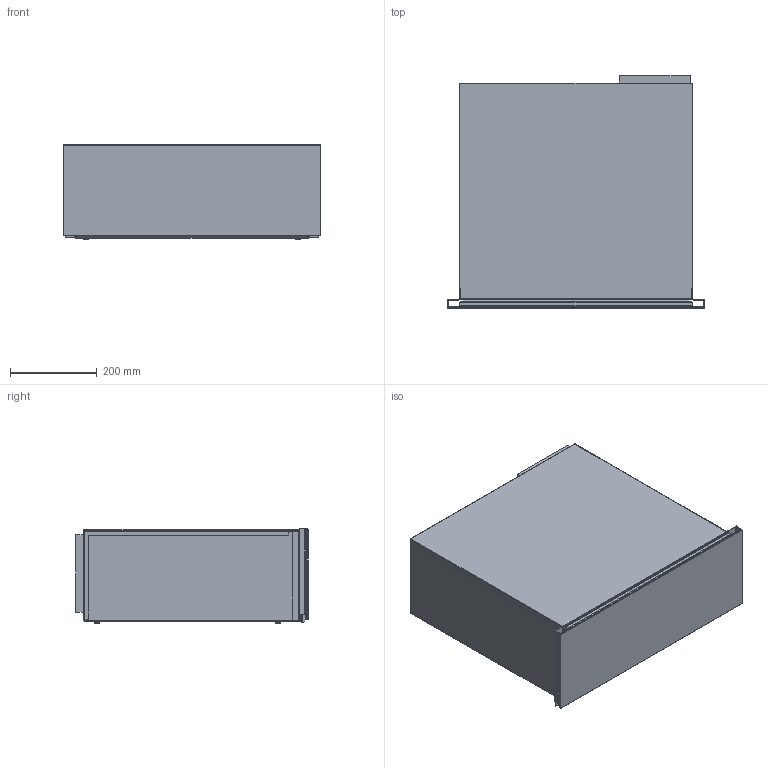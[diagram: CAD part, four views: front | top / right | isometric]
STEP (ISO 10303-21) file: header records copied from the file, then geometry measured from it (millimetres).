
FILE_DESCRIPTION(/* description */ (''),/* implementation_level */ '2;1');
FILE_NAME(/* name */ 'X3402900000-A',/* time_stamp */ '2022-12-05T18:33:33+01:00',/* author */ (''),/* organization */ (''),/* preprocessor_version */ 'ST-DEVELOPER v16.5',/* originating_system */ 'Rhino 7.24',/* authorisation */ '');
FILE_SCHEMA (('AUTOMOTIVE_DESIGN'));
Length unit declared in the file: millimetre
Products named in the file (1): Document
Bounding box: 596 x 537 x 218 mm (x, y, z)
Volume: 6877992.2 mm3; surface area: 3148218.4 mm2
Topology: 11 solids, 11 shells, 239 faces, 593 edges, 374 vertices
Faces by surface type: plane 138, cylinder 71, bspline 30
Entity records: 7449 total; most frequent: CARTESIAN_POINT 3395, ORIENTED_EDGE 1174, EDGE_CURVE 587, B_SPLINE_CURVE_WITH_KNOTS 431, VERTEX_POINT 374, EDGE_LOOP 251, ADVANCED_FACE 239, FACE_OUTER_BOUND 239
